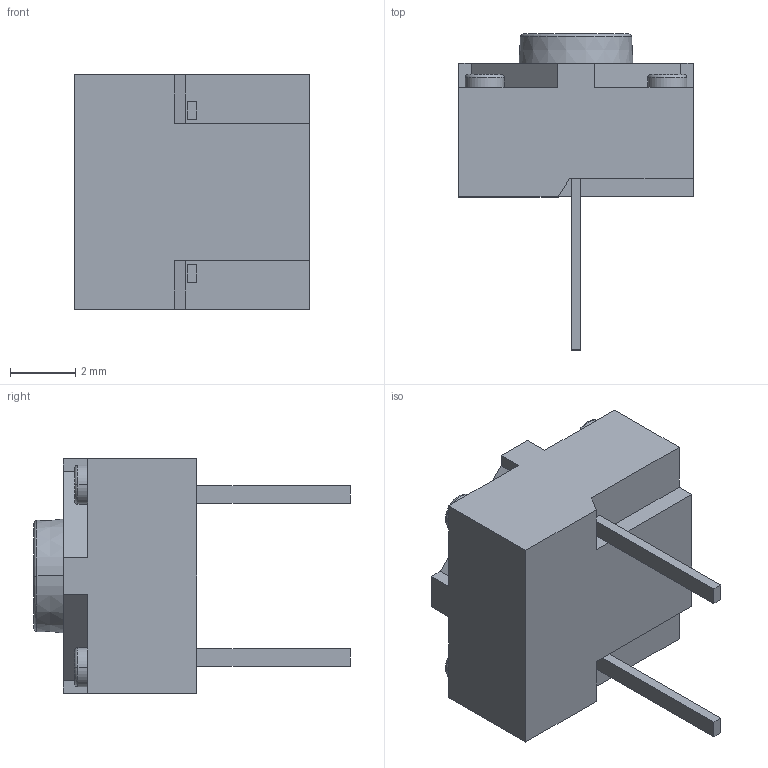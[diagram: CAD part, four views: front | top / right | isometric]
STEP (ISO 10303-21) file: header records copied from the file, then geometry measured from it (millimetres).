
FILE_DESCRIPTION((''),'2;1');
FILE_NAME('TSWJB-31TL','2023-04-14T',('Administrator'),(''),'PRO/ENGINEER BY PARAMETRIC TECHNOLOGY CORPORATION, 2013040','PRO/ENGINEER BY PARAMETRIC TECHNOLOGY CORPORATION, 2013040','');
FILE_SCHEMA(('CONFIG_CONTROL_DESIGN'));
Length unit declared in the file: millimetre
Products named in the file (1): TSWJB-31TL
Bounding box: 7.2 x 9.7 x 7.2 mm (x, y, z)
Volume: 200.8 mm3; surface area: 248.8 mm2
Topology: 1 solids, 1 shells, 276 faces, 764 edges, 506 vertices
Faces by surface type: plane 256, torus 10, cylinder 8, cone 2
Entity records: 8686 total; most frequent: CARTESIAN_POINT 1546, ORIENTED_EDGE 1528, DIRECTION 1356, EDGE_CURVE 764, VECTOR 724, LINE 724, VERTEX_POINT 506, AXIS2_PLACEMENT_3D 316
